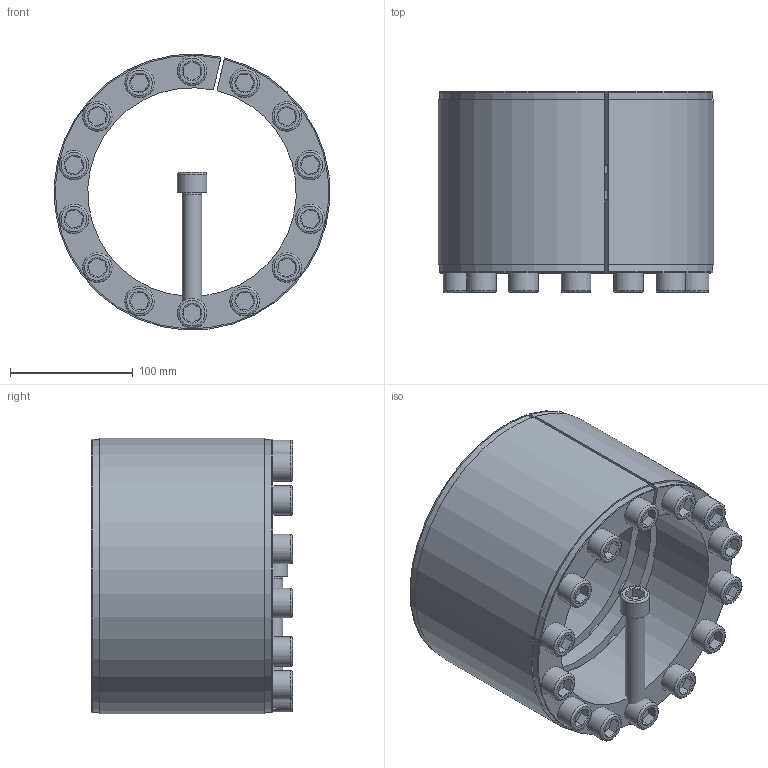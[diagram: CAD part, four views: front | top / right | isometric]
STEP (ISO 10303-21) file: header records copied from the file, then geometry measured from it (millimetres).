
FILE_DESCRIPTION( ( 'Unknown' ), '1' );
FILE_NAME( 'C:/Dokumente und Einstellungen/Sven/Desktop/homepage/cad - homepage/KBS11/KBS 11 - 170 x 225.stp', 'Unknown', ( 'Unknown' ), ( 'Unknown' ), 'XStep 1.0', 'Unknown', ' ' );
FILE_SCHEMA( ( 'automotive_design' ) );
Length unit declared in the file: millimetre
Products named in the file (3): Assem1; KBS 11 - 170 x 225; ISO EN DIN 4762 M16x110
Bounding box: 224.71 x 164 x 224.78 mm (x, y, z)
Volume: 4280151.9 mm3; surface area: 839482.5 mm2
Topology: 17 solids, 17 shells, 499 faces, 1061 edges, 656 vertices
Faces by surface type: plane 200, cylinder 156, cone 113, torus 30
Full cylindrical faces by diameter (mm): 13 x15, 16 x114, 24 x15
Entity records: 3286 total; most frequent: CARTESIAN_POINT 509, DIRECTION 484, ORIENTED_EDGE 346, EDGE_LOOP 224, AXIS2_PLACEMENT_3D 222, EDGE_CURVE 173, VERTEX_POINT 143, FACE_OUTER_BOUND 135
